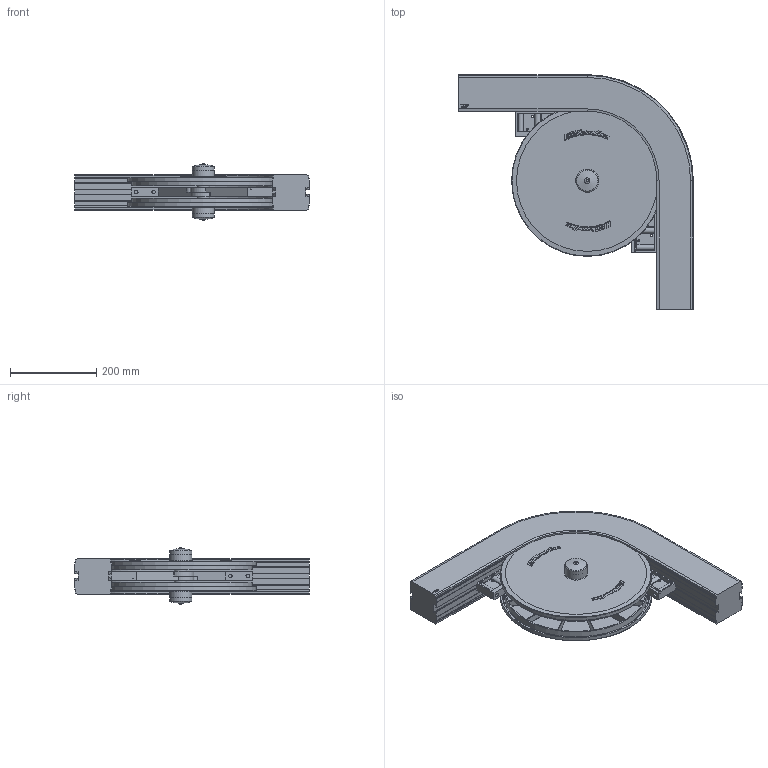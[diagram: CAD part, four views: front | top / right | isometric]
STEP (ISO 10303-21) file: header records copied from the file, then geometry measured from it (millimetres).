
FILE_DESCRIPTION((''),'2;1');
FILE_NAME('C:\Vault Klient\Projekt\Koncept konstruktion\Serie 830 Hjulkurva\830-5040.stp','2009-12-01T15:27:22',('Mathias'),(''),'Autodesk Inventor 2010','Autodesk Inventor 2010','');
FILE_SCHEMA(('CONFIG_CONTROL_DESIGN'));
Length unit declared in the file: millimetre
Products named in the file (5): 830-5040; 830-1000_02; 830-5056; 830-5057; FCWA-0476-025
Assembly tree (7 placements, depth 2):
  830-5040
    830-1000_02
    830-5056  x2
    830-5057  x2
    FCWA-0476-025  x2
Bounding box: 543 x 543 x 131.93 mm (x, y, z)
Volume: 7502405.4 mm3; surface area: 1094260.6 mm2
Topology: 7 solids, 7 shells, 1539 faces, 3850 edges, 2386 vertices
Faces by surface type: plane 831, bspline 334, cylinder 236, cone 72, torus 62, sphere 4
Full cylindrical faces by diameter (mm): 6 x16, 29.5 x2, 30 x2, 40 x4, 47.6 x2, 50.3 x2, 51.3 x2, 350 x2
Entity records: 30482 total; most frequent: CARTESIAN_POINT 10658, ORIENTED_EDGE 4136, DIRECTION 3780, EDGE_CURVE 2068, VERTEX_POINT 1326, VECTOR 1280, LINE 1280, AXIS2_PLACEMENT_3D 1250
